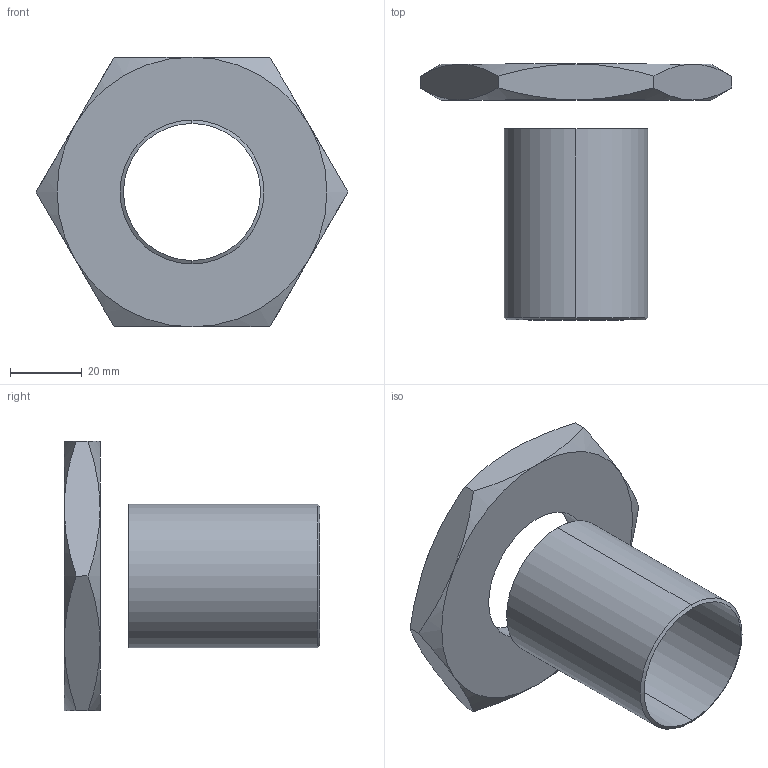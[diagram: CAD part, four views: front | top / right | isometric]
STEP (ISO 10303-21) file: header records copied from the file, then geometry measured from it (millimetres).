
FILE_DESCRIPTION (( 'STEP AP203' ), '1' );
FILE_NAME ('63302.W0042_1,25 UNC-7.step', '2013-12-08T11:16:33', ( 'User' ), ( '' ), 'SwSTEP 2.0', 'SolidWorks 2009', '' );
FILE_SCHEMA (( 'CONFIG_CONTROL_DESIGN' ));
Length unit declared in the file: millimetre
Products named in the file (1): 63302.W0042_1,25 UNC-7
Bounding box: 86.6 x 71.05 x 75 mm (x, y, z)
Volume: 41708.9 mm3; surface area: 23761.8 mm2
Topology: 2 solids, 2 shells, 31 faces, 66 edges, 38 vertices
Faces by surface type: cone 16, plane 9, cylinder 6
Entity records: 1041 total; most frequent: CARTESIAN_POINT 320, DIRECTION 132, ORIENTED_EDGE 132, EDGE_CURVE 66, AXIS2_PLACEMENT_3D 58, VERTEX_POINT 38, EDGE_LOOP 34, ADVANCED_FACE 31
